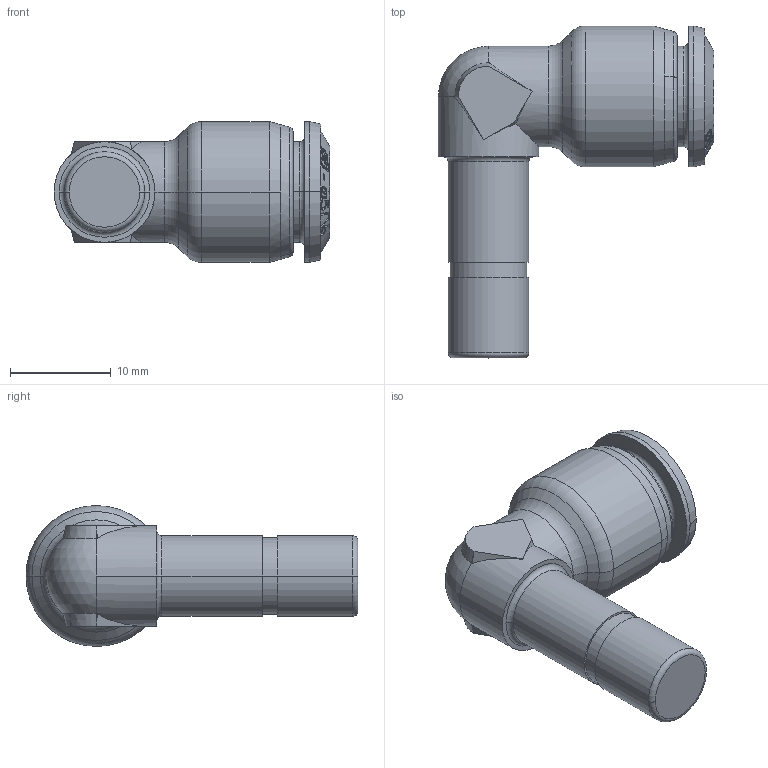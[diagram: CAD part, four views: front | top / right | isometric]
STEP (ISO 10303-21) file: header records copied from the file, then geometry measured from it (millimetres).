
FILE_DESCRIPTION (( 'STEP AP214' ), '1' );
FILE_NAME ('8514000007A.STEP', '2020-05-19T09:51:50', ( 'admin' ), ( '' ), 'SwSTEP 2.0', 'SolidWorks 2016', '' );
FILE_SCHEMA (( 'AUTOMOTIVE_DESIGN' ));
Length unit declared in the file: millimetre
Products named in the file (1): 8514000007A
Bounding box: 27.4 x 33 x 14 mm (x, y, z)
Volume: 3244 mm3; surface area: 2334.8 mm2
Topology: 1 solids, 1 shells, 184 faces, 457 edges, 293 vertices
Faces by surface type: bspline 97, cone 34, plane 22, cylinder 18, torus 12, sphere 1
Entity records: 12489 total; most frequent: CARTESIAN_POINT 8774, ORIENTED_EDGE 914, DIRECTION 481, EDGE_CURVE 457, VERTEX_POINT 293, B_SPLINE_CURVE_WITH_KNOTS 214, EDGE_LOOP 202, ADVANCED_FACE 184
